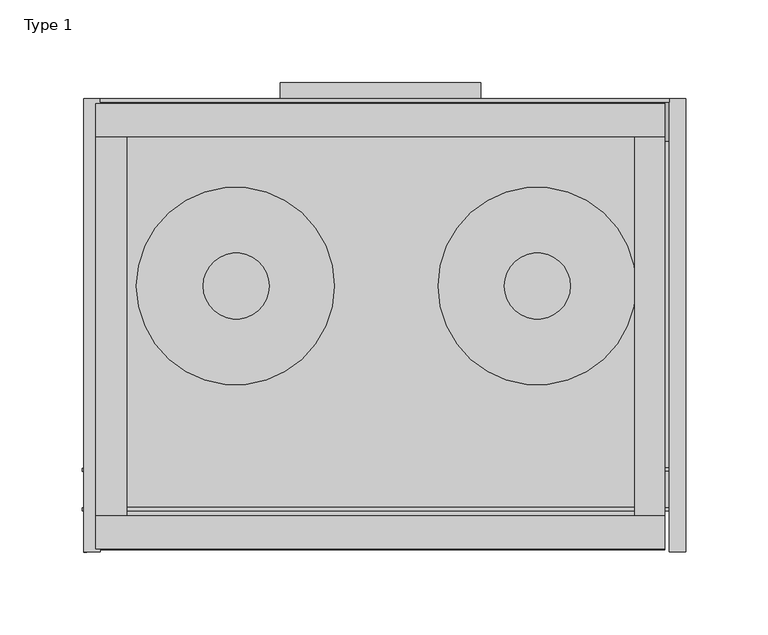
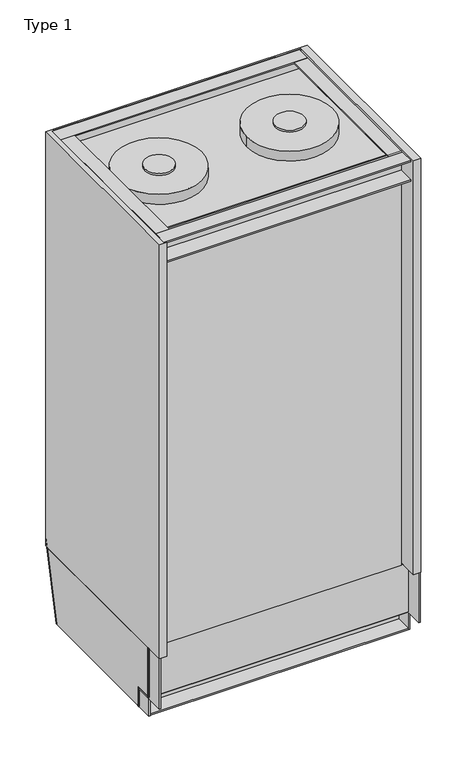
"""IFC4 building model written with IfcOpenShell, lengths in millimetres: proxy geometry, UE001 - Carel_Humidifier_Wallmount_BIM_Model : Type 1."""

from ifc_helpers import new_model, si_unit, point, frame, frame_2d, origin, place, context, project, spatial, polyline, circle_curve, ellipse_curve, trimmed, segment, composite_curve, outline, extrude, source, transform, mapped, element, save
from ifc_brep_helpers import plane_surface, extruded_surface, advanced_brep


def type_1_3abf962e(model_context):
    return source(origin(), model_context, "Body", "SolidModel", [
        extrude(outline(composite_curve([segment(trimmed(circle_curve(frame_2d((-90.9720559, 211.426212)), 20.0), [point((-110.9720559, 211.426212))], [point((-70.9720559, 211.426212))], False, "CARTESIAN"), True, "CONTINUOUS"), segment(trimmed(circle_curve(frame_2d((-90.9720559, 211.426212)), 20.0), [point((-70.9720559, 211.426212))], [point((-110.9720559, 211.426212))], False, "CARTESIAN"), True, "CONTINUOUS")], self_intersect=False)), frame((0.0, 0.0, 1098.1445814), z_axis=(0.0, 0.0, 1.0), x_axis=(1.0, 0.0, 0.0)), (0.0, 0.0, 1.0), 2.8183678),
        extrude(outline(composite_curve([segment(trimmed(circle_curve(frame_2d((91.6156471, 211.426212)), 20.0), [point((71.6156471, 211.426212))], [point((111.6156471, 211.426212))], False, "CARTESIAN"), True, "CONTINUOUS"), segment(trimmed(circle_curve(frame_2d((91.6156471, 211.426212)), 20.0), [point((111.6156471, 211.426212))], [point((71.6156471, 211.426212))], False, "CARTESIAN"), True, "CONTINUOUS")], self_intersect=False)), frame((0.0, 0.0, 1098.1445814), z_axis=(0.0, 0.0, 1.0), x_axis=(1.0, 0.0, 0.0)), (0.0, 0.0, 1.0), 2.8183678),
        extrude(outline(composite_curve([segment(trimmed(circle_curve(frame_2d((91.4514251, 211.426212)), 60.0), [point((151.4514251, 211.426212))], [point((31.4514251, 211.426212))], False, "CARTESIAN"), True, "CONTINUOUS"), segment(trimmed(circle_curve(frame_2d((91.4514251, 211.426212)), 60.0), [point((31.4514251, 211.426212))], [point((151.4514251, 211.426212))], False, "CARTESIAN"), True, "CONTINUOUS")], self_intersect=False)), frame((0.0, 0.0, 1083.4905184), z_axis=(0.0, 0.0, 1.0), x_axis=(1.0, 0.0, 0.0)), (0.0, 0.0, 1.0), 14.6540629),
        extrude(outline(composite_curve([segment(trimmed(circle_curve(frame_2d((-91.4514251, 211.426212)), 60.0), [point((-151.4514251, 211.426212))], [point((-31.4514251, 211.426212))], False, "CARTESIAN"), True, "CONTINUOUS"), segment(trimmed(circle_curve(frame_2d((-91.4514251, 211.426212)), 60.0), [point((-31.4514251, 211.426212))], [point((-151.4514251, 211.426212))], False, "CARTESIAN"), True, "CONTINUOUS")], self_intersect=False)), frame((0.0, 0.0, 1083.4905184), z_axis=(0.0, 0.0, 1.0), x_axis=(1.0, 0.0, 0.0)), (0.0, 0.0, 1.0), 14.6540629),
        extrude(outline(polyline([(325.1569067, 453.8519826), (325.1569067, 447.030123), (314.1148659, 443.0111489), (315.7599805, 450.4317811), (325.1569067, 453.8519826)])), frame((-150.8801784, 0.0, 0.0), z_axis=(1.0, 0.0, 0.0), x_axis=(0.0, 1.0, 0.0)), (0.0, 0.0, 1.0), 20.8809272),
        extrude(outline(polyline([(0.0, -3.8339423), (0.0, 0.0), (27.228015, 0.0), (27.228015, -3.8339423), (0.0, -3.8339423)])), frame((-154.1935427, 311.4162981, 430.8386958), z_axis=(0.0, 0.21643961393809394, 0.9762960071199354), x_axis=(1.0, 0.0, 0.0)), (0.0, 0.0, 1.0), 27.0024194),
        extrude(outline(polyline([(-181.4793267, 299.0980987), (179.42978, 299.0980987), (179.42978, 76.1773855), (-181.4793267, 76.1773855), (-181.4793267, 299.0980987)])), frame((0.0, 0.0, 400.0), z_axis=(0.0, 0.0, 1.0), x_axis=(1.0, 0.0, 0.0)), (0.0, 0.0, 1.0), 2.0),
        extrude(outline(composite_curve([segment(polyline([(519.4577065, 46.4496427), (519.4577065, -53.9639815)]), True, "CONTINUOUS"), segment(trimmed(circle_curve(frame_2d((499.4577065, -14.649782)), 44.1090272), [point((519.4577065, -53.9639815))], [point((479.4577065, -53.9639815))], False, "CARTESIAN"), True, "CONTINUOUS"), segment(polyline([(479.4577065, -53.9639815), (479.4577065, 46.4496427)]), True, "CONTINUOUS"), segment(trimmed(circle_curve(frame_2d((499.4577065, 7.1354432)), 44.1090272), [point((479.4577065, 46.4496427))], [point((519.4577065, 46.4496427))], False, "CARTESIAN"), True, "CONTINUOUS")], self_intersect=False)), frame((0.0, 325.0364506, 0.0), z_axis=(0.0, 1.0, 0.0), x_axis=(0.0, 0.0, 1.0)), (0.0, 0.0, 1.0), 9.9309076),
        extrude(outline(polyline([(529.4577065, 57.1707378), (529.4577065, -64.1734154), (469.4577065, -64.1734154), (469.4577065, 57.1707378), (529.4577065, 57.1707378)]), holes=[composite_curve([segment(trimmed(circle_curve(frame_2d((499.4577065, 7.1354432)), 49.1090272), [point((524.4577065, 49.4047767))], [point((474.4577065, 49.4047767))], True, "CARTESIAN"), True, "CONTINUOUS"), segment(polyline([(474.4577065, 49.4047767), (474.4577065, -56.9191155)]), True, "CONTINUOUS"), segment(trimmed(circle_curve(frame_2d((499.4577065, -14.649782)), 49.1090272), [point((474.4577065, -56.9191155))], [point((524.4577065, -56.9191155))], True, "CARTESIAN"), True, "CONTINUOUS"), segment(polyline([(524.4577065, -56.9191155), (524.4577065, 49.4047767)]), True, "CONTINUOUS")], self_intersect=False)]), frame((0.0, 325.0364506, 0.0), z_axis=(0.0, 1.0, 0.0), x_axis=(0.0, 0.0, 1.0)), (0.0, 0.0, 1.0), 9.9309076),
        extrude(outline(polyline([(168.7469486, 322.651872), (168.7469486, 51.3641482), (-176.2612875, 51.3641482), (-176.2612875, 322.651872), (168.7469486, 322.651872)])), frame((0.0, 0.0, 1081.4750398), z_axis=(0.0, 0.0, 1.0), x_axis=(1.0, 0.0, 0.0)), (0.0, 0.0, 1.0), 2.0154786),
        extrude(outline(polyline([(-176.2612875, 302.036335), (-176.2612875, 322.036335), (168.7469486, 322.036335), (168.7469486, 302.036335), (-176.2612875, 302.036335)])), frame((0.0, 0.0, 1109.8966395), z_axis=(0.0, 0.0, 1.0), x_axis=(1.0, 0.0, 0.0)), (0.0, 0.0, 1.0), 2.1033605),
        extrude(outline(polyline([(-176.2612875, 52.036335), (-176.2612875, 72.036335), (168.7469486, 72.036335), (168.7469486, 52.036335), (-176.2612875, 52.036335)])), frame((0.0, 0.0, 1109.8966395), z_axis=(0.0, 0.0, 1.0), x_axis=(1.0, 0.0, 0.0)), (0.0, 0.0, 1.0), 2.1033605),
        extrude(outline(polyline([(-157.3180842, 72.036335), (-176.2612875, 72.036335), (-176.2612875, 302.036335), (-157.3180842, 302.036335), (-157.3180842, 72.036335)])), frame((0.0, 0.0, 1104.1981623), z_axis=(0.0, 0.0, 1.0), x_axis=(1.0, 0.0, 0.0)), (0.0, 0.0, 1.0), 7.8083825),
        extrude(outline(polyline([(150.60469, 72.036335), (150.60469, 302.036335), (168.7469486, 302.036335), (168.7469486, 72.036335), (150.60469, 72.036335)])), frame((0.0, 0.0, 1109.8966395), z_axis=(0.0, 0.0, 1.0), x_axis=(1.0, 0.0, 0.0)), (0.0, 0.0, 1.0), 2.0244427),
        extrude(outline(polyline([(176.68893, 100.9740846), (176.68893, 99.0602683), (-184.2032688, 99.0602683), (-184.2032688, 100.9740846), (176.68893, 100.9740846)])), frame((0.0, 0.0, 400.0), z_axis=(0.0, 0.0, 1.0), x_axis=(1.0, 0.0, 0.0)), (0.0, 0.0, 1.0), 2.0),
        extrude(outline(polyline([(179.42978, 99.0602683), (179.42978, 76.9953596), (-183.5288733, 76.9953596), (-183.5288733, 99.0602683), (179.42978, 99.0602683)])), frame((0.0, 0.0, 425.3090696), z_axis=(0.0, 0.0, 1.0), x_axis=(1.0, 0.0, 0.0)), (0.0, 0.0, 1.0), 2.0817444),
        advanced_brep(
        [(171.4793447, 322.9636447, 500.0), (171.4793447, 322.9636447, 1112.0), (-173.5288914, 322.9636447, 1112.0), (-173.5288914, 322.9636447, 500.0), (31.4711086, 322.9636447, 1037.0), (-33.5288914, 322.9636447, 1037.0), (171.4793447, 325.0364506, 500.0), (-173.5288914, 325.0364506, 500.0), (-173.5288914, 325.0364506, 1112.0), (171.4793447, 325.0364506, 1112.0), (31.4711086, 325.0364506, 1037.0), (-33.5288914, 325.0364506, 1037.0)],
        [
            (0, 1),
            (1, 2),
            (2, 3),
            (3, 0),
            (4, 5, ellipse_curve(frame((-1.0288914, 322.9636447, 1037.0), z_axis=(0.0, 1.0, 0.0), x_axis=(-1.0, 0.0, 0.0)), 32.5, 10.0)),
            (5, 4, ellipse_curve(frame((-1.0288914, 322.9636447, 1037.0), z_axis=(0.0, 1.0, 0.0), x_axis=(1.0, 0.0, 0.0)), 32.5, 10.0)),
            (6, 7),
            (7, 8),
            (8, 9),
            (9, 6),
            (10, 11, ellipse_curve(frame((-1.0288914, 325.0364506, 1037.0), z_axis=(0.0, -1.0, 0.0), x_axis=(1.0, 0.0, 0.0)), 32.5, 10.0)),
            (11, 10, ellipse_curve(frame((-1.0288914, 325.0364506, 1037.0), z_axis=(0.0, -1.0, 0.0), x_axis=(-1.0, 0.0, 0.0)), 32.5, 10.0)),
            (3, 7),
            (6, 0),
            (2, 8),
            (1, 9),
            (4, 10),
            (11, 5),
        ],
        [
            plane_surface(frame((171.4793447, 322.9636447, 601.0000128), z_axis=(0.0, -1.0, 0.0), x_axis=(0.0, 0.0, 1.0))),
            plane_surface(frame((171.4793447, 325.0364506, 601.0000128), z_axis=(0.0, 1.0, 0.0), x_axis=(0.0, 0.0, -1.0))),
            plane_surface(frame((-173.5288914, 322.9636447, 500.0), z_axis=(0.0, 0.0, -1.0), x_axis=(0.0, 1.0, 0.0))),
            plane_surface(frame((-173.5288914, 322.9636447, 1112.0), z_axis=(-1.0, 0.0, 0.0), x_axis=(0.0, 1.0, 0.0))),
            plane_surface(frame((171.4793447, 322.9636447, 1112.0), z_axis=(0.0, 0.0, 1.0), x_axis=(0.0, 1.0, 0.0))),
            plane_surface(frame((171.4793447, 322.9636447, 500.0), z_axis=(1.0, 0.0, 0.0), x_axis=(0.0, 1.0, 0.0))),
            extruded_surface(trimmed(ellipse_curve(frame((-1.0288914, 214.5728036, 1037.0), z_axis=(0.0, 1.0, 0.0), x_axis=(-1.0, 0.0, 0.0)), 32.5, 10.0), [point((31.4711086, 214.5728036, 1037.0))], [point((-33.5288914, 214.5728036, 1037.0))], True, "CARTESIAN"), (0.0, -2.0728057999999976, 0.0), 2.0728057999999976),
            extruded_surface(trimmed(ellipse_curve(frame((-1.0288914, 214.5728036, 1037.0), z_axis=(0.0, 1.0, 0.0), x_axis=(1.0, 0.0, 0.0)), 32.5, 10.0), [point((-33.5288914, 214.5728036, 1037.0))], [point((31.4711086, 214.5728036, 1037.0))], True, "CARTESIAN"), (0.0, -2.0728057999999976, 0.0), 2.0728057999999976),
        ],
        [
            (0, [[1, 2, 3, 4], [5, 6]]),
            (1, [[7, 8, 9, 10], [11, 12]]),
            (2, [[-4, 13, -7, 14]]),
            (3, [[-3, 15, -8, -13]]),
            (4, [[-2, 16, -9, -15]]),
            (5, [[-1, -14, -10, -16]]),
            (6, [[-5, 17, -12, 18]]),
            (7, [[-6, -18, -11, -17]]),
        ],
    ),
        advanced_brep(
        [(30.9036292, 322.9636447, 1037.0), (-33.0288914, 322.9636447, 1037.0), (30.9036292, 325.0364506, 1037.0), (-33.0288914, 325.0364506, 1037.0)],
        [
            (0, 1, ellipse_curve(frame((-1.0626311, 322.9636447, 1037.0), z_axis=(0.0, -1.0, 0.0), x_axis=(1.0, 0.0, 0.0)), 31.9662603, 9.5628849)),
            (1, 0, ellipse_curve(frame((-1.0626311, 322.9636447, 1037.0), z_axis=(0.0, -1.0, 0.0), x_axis=(-1.0, 0.0, 0.0)), 31.9662603, 9.4535919)),
            (2, 3, ellipse_curve(frame((-1.0626311, 325.0364506, 1037.0), z_axis=(0.0, 1.0, 0.0), x_axis=(-1.0, 0.0, 0.0)), 31.9662603, 9.4535919)),
            (3, 2, ellipse_curve(frame((-1.0626311, 325.0364506, 1037.0), z_axis=(0.0, 1.0, 0.0), x_axis=(1.0, 0.0, 0.0)), 31.9662603, 9.5628849)),
            (0, 2),
            (3, 1),
        ],
        [
            plane_surface(frame((171.4793447, 322.9636447, 601.0000128), z_axis=(0.0, -1.0, 0.0), x_axis=(0.0, 0.0, 1.0))),
            plane_surface(frame((171.4793447, 325.0364506, 601.0000128), z_axis=(0.0, 1.0, 0.0), x_axis=(0.0, 0.0, -1.0))),
            extruded_surface(trimmed(ellipse_curve(frame((-1.0626311, 214.5728036, 1037.0), z_axis=(0.0, -1.0, 0.0), x_axis=(1.0, 0.0, 0.0)), 31.9662603, 9.5628849), [point((30.9036292, 214.5728036, 1037.0))], [point((-33.0288914, 214.5728036, 1037.0))], True, "CARTESIAN"), (0.0, -2.0728057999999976, 0.0), 2.0728057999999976),
            extruded_surface(trimmed(ellipse_curve(frame((-1.0626311, 214.5728036, 1037.0), z_axis=(0.0, -1.0, 0.0), x_axis=(-1.0, 0.0, 0.0)), 31.9662603, 9.4535919), [point((-33.0288914, 214.5728036, 1037.0))], [point((30.9036292, 214.5728036, 1037.0))], True, "CARTESIAN"), (0.0, -2.0728057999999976, 0.0), 2.0728057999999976),
        ],
        [
            (0, [[1, 2]]),
            (1, [[3, 4]]),
            (2, [[-1, 5, -4, 6]]),
            (3, [[-2, -6, -3, -5]]),
        ],
    ),
        extrude(outline(polyline([(-176.2612875, 77.0363508), (168.7469486, 77.0363508), (168.7469486, 75.0), (-176.2612875, 75.0), (-176.2612875, 77.0363508)])), frame((0.0, 0.0, 500.0), z_axis=(0.0, 0.0, 1.0), x_axis=(1.0, 0.0, 0.0)), (0.0, 0.0, 1.0), 612.0),
        extrude(outline(polyline([(-184.2117227, 76.9953596), (178.7469306, 76.9953596), (178.7469306, 75.0), (-184.2117227, 75.0), (-184.2117227, 76.9953596)])), frame((0.0, 0.0, 427.3908139), z_axis=(0.0, 0.0, 1.0), x_axis=(1.0, 0.0, 0.0)), (0.0, 0.0, 1.0), 72.6091861),
        extrude(outline(polyline([(-183.5288733, 49.9999876), (-183.5288733, 325.0), (-173.5288914, 325.0), (-173.5288914, 49.9999876), (-183.5288733, 49.9999876)])), frame((0.0, 0.0, 500.0), z_axis=(0.0, 0.0, 1.0), x_axis=(1.0, 0.0, 0.0)), (0.0, 0.0, 1.0), 612.0),
        extrude(outline(polyline([(-183.5288733, 101.1773855), (181.4793267, 101.1773855), (181.4793267, 99.0602683), (-183.5288733, 99.0602683), (-183.5288733, 101.1773855)])), frame((0.0, 0.0, 400.0), z_axis=(0.0, 0.0, 1.0), x_axis=(1.0, 0.0, 0.0)), (0.0, 0.0, 1.0), 27.3908139),
        extrude(outline(polyline([(325.0364506, 510.7561389), (300.4824086, 400.0000128), (299.0980987, 400.0000128), (323.6521407, 510.7561389), (325.0364506, 510.7561389)])), frame((-183.5206798, 0.0, 0.0), z_axis=(1.0, 0.0, 0.0), x_axis=(0.0, 1.0, 0.0)), (0.0, 0.0, 1.0), 362.9335519),
        extrude(outline(polyline([(75.4, 400.0000128), (75.4, 425.4000128), (50.0, 425.4000128), (50.0, 500.0), (321.2675622, 500.0), (299.0980987, 400.0000128), (75.4, 400.0000128)])), frame((-183.5288733, 0.0, 0.0), z_axis=(1.0, 0.0, 0.0), x_axis=(0.0, 1.0, 0.0)), (0.0, 0.0, 1.0), 2.0495467),
        extrude(outline(polyline([(181.4793267, 325.0364506), (181.4793267, 49.9999876), (171.4793447, 49.9999876), (171.4793447, 325.0364506), (181.4793267, 325.0364506)])), frame((0.0, 0.0, 500.0), z_axis=(0.0, 0.0, 1.0), x_axis=(1.0, 0.0, 0.0)), (0.0, 0.0, 1.0), 612.0),
        extrude(outline(polyline([(76.7641482, 399.9090696), (76.7641482, 425.3090696), (51.3641482, 425.3090696), (51.3641482, 500.0), (322.651872, 500.0), (300.4622469, 399.9090696), (76.7641482, 399.9090696)])), frame((179.42978, 0.0, 0.0), z_axis=(1.0, 0.0, 0.0), x_axis=(0.0, 1.0, 0.0)), (0.0, 0.0, 1.0), 2.0495467),
    ])


if __name__ == "__main__":
    model = new_model("IFC4")
    model_context = context("Model", 3, world=origin())
    ifc_project = project(units=[si_unit("LENGTHUNIT", "METRE", prefix="MILLI")], contexts=[model_context])
    site = spatial("IfcSite", under=ifc_project)
    building = spatial("IfcBuilding", under=site)
    placement = place(None, origin())
    type_1_shape = type_1_3abf962e(model_context)
    element("IfcBuildingElementProxy", 1, Name="UE001 - Carel_Humidifier_Wallmount_BIM_Model : Type 1", ObjectType="UE001 - Carel_Humidifier_Wallmount_BIM_Model : Type 1", at=placement, inside=building, context=model_context, shape_type="MappedRepresentation", body=[
        mapped(type_1_shape, transform((0.0, 0.0, 0.0), x_axis=(1.0, 0.0, 0.0), y_axis=(0.0, 1.0, 0.0), z_axis=(0.0, 0.0, 1.0))),
    ])
    save(model, "model.ifc")
